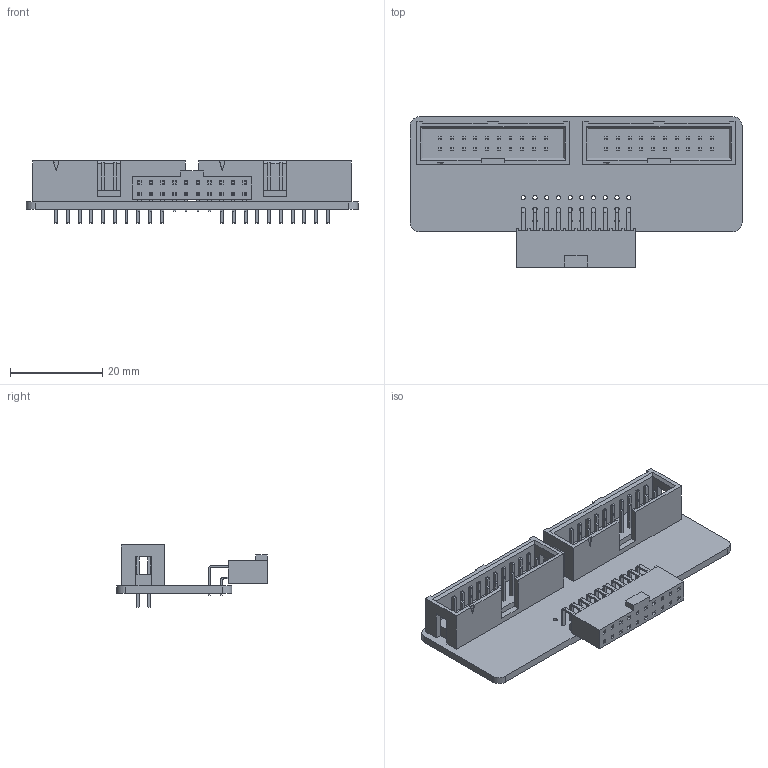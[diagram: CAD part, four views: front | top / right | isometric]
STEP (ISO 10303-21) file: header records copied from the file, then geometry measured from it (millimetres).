
FILE_DESCRIPTION(('Open CASCADE Model'),'2;1');
FILE_NAME('Open CASCADE Shape Model','2024-12-20T10:41:33',('Author'),( 'Open CASCADE'),'Open CASCADE STEP processor 7.5','Open CASCADE 7.5' ,'Unknown');
FILE_SCHEMA(('AUTOMOTIVE_DESIGN { 1 0 10303 214 1 1 1 1 }'));
Length unit declared in the file: millimetre
Products named in the file (13): PCB; Board; Open CASCADE STEP translator 7.5 1.1.1; P3; TST-110-02-G-D_RGB4408131; _TST-110-02-D_header; _TST-First_Position_Indicator; _T-1S6-10-02-D; P2; P1; SSW-110-02-G-D-RA-N_RGB5527646; _SSW-110-02-G-D-RA-N_terminal; _SSW-110-02-G-D-RA_pin
Assembly tree (13 placements, depth 4):
  PCB
    Board
      Open CASCADE STEP translator 7.5 1.1.1
    P3
      TST-110-02-G-D_RGB4408131
        _TST-110-02-D_header
        _TST-First_Position_Indicator
        _T-1S6-10-02-D
    P2
      TST-110-02-G-D_RGB4408131
        _TST-110-02-D_header
        _TST-First_Position_Indicator
        _T-1S6-10-02-D
    P1
      SSW-110-02-G-D-RA-N_RGB5527646
        _SSW-110-02-G-D-RA-N_terminal
        _SSW-110-02-G-D-RA_pin
Bounding box: 72 x 32.67 x 13.46 mm (x, y, z)
Volume: 6703.5 mm3; surface area: 11144.5 mm2
Topology: 9 solids, 9 shells, 1016 faces, 2946 edges, 1960 vertices
Faces by surface type: plane 894, cylinder 114, sphere 8
Full cylindrical faces by diameter (mm): 0.9 x70
Entity records: 24141 total; most frequent: CARTESIAN_POINT 4238, ORIENTED_EDGE 4168, DIRECTION 3796, EDGE_CURVE 2084, LINE 1844, VECTOR 1844, VERTEX_POINT 1390, AXIS2_PLACEMENT_3D 976
